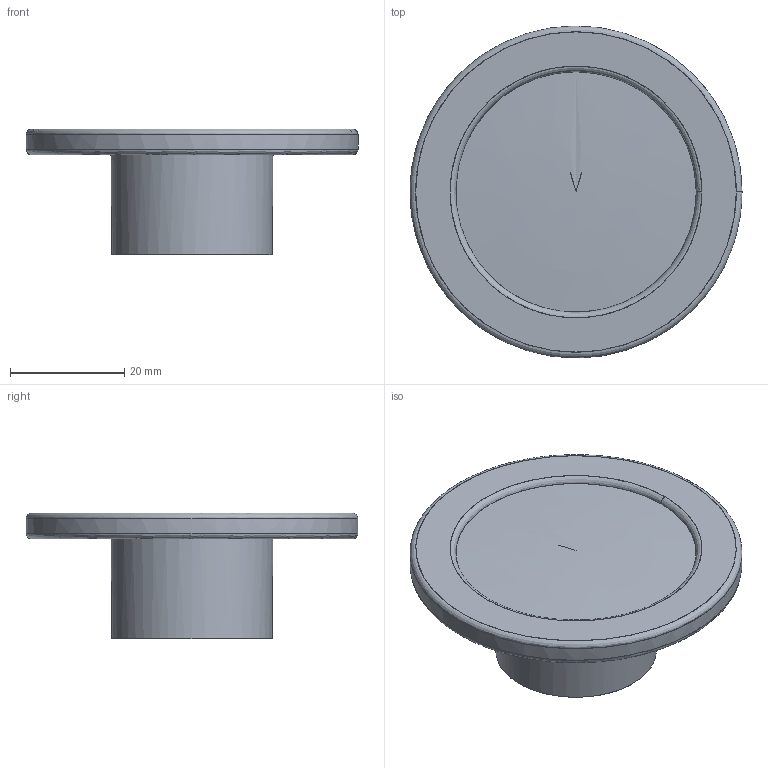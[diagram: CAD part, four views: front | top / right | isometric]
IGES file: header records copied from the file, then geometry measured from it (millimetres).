
Start section: C
Global section: file name: 8155.igs; native system: By Siemens PLM Incorporated; preprocessor: XPlus GENERIC/IGES 16.0.42; author: Author; organization: Title; date: 20231120.123144; units: millimetre
Bounding box: 58 x 57.99 x 22 mm (x, y, z)
Surface area: 9837.3 mm2 (no closed solid volume)
Topology: 0 solids, 0 shells, 22 faces, 129 edges, 128 vertices
Faces by surface type: bspline 22
